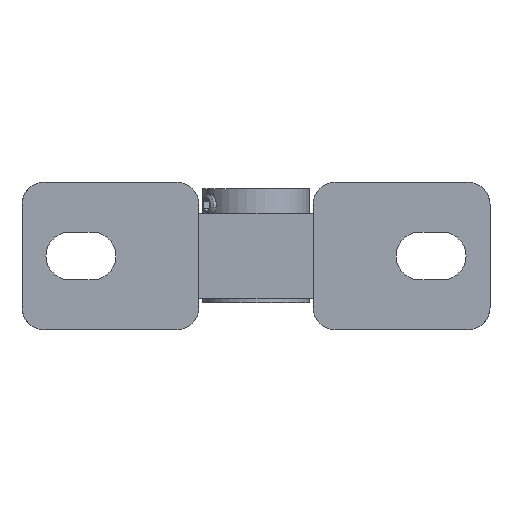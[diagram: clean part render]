
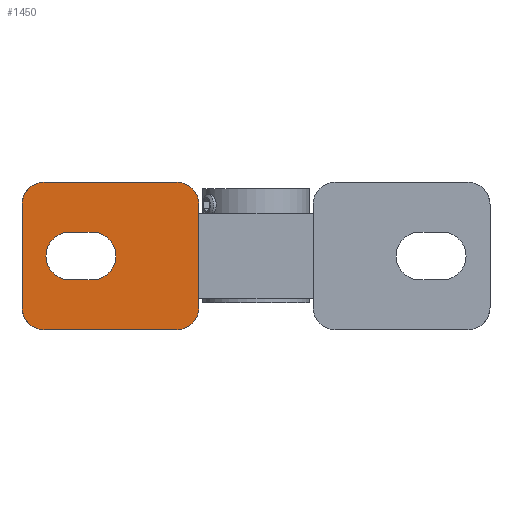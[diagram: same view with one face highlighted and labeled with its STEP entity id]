
A CAD part, front view. The second image highlights one B-rep face of the part: STEP entity #1450.
In plain terms, the highlighted planar face has unit normal (0, -1, 0).
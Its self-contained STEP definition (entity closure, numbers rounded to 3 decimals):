
#179=CARTESIAN_POINT('',(20.855,-31.095,-20.0));
#180=VERTEX_POINT('',#179);
#187=CARTESIAN_POINT('',(-15.145,-31.095,-20.0));
#188=VERTEX_POINT('',#187);
#189=CARTESIAN_POINT('',(20.855,-31.095,-20.0));
#190=DIRECTION('',(-1.0,0.0,0.0));
#191=VECTOR('',#190,36.);
#192=LINE('',#189,#191);
#193=EDGE_CURVE('',#180,#188,#192,.T.);
#776=CARTESIAN_POINT('',(26.855,-31.095,14.));
#777=VERTEX_POINT('',#776);
#784=CARTESIAN_POINT('',(26.855,-31.095,-14.));
#785=VERTEX_POINT('',#784);
#786=CARTESIAN_POINT('',(26.855,-31.095,14.));
#787=DIRECTION('',(0.0,0.0,-1.0));
#788=VECTOR('',#787,28.0);
#789=LINE('',#786,#788);
#790=EDGE_CURVE('',#777,#785,#789,.T.);
#1227=CARTESIAN_POINT('',(-21.145,-31.095,-14.0));
#1228=VERTEX_POINT('',#1227);
#1229=CARTESIAN_POINT('',(-15.145,-31.095,-14.0));
#1230=DIRECTION('',(0.0,1.0,0.0));
#1231=DIRECTION('',(-0.707,0.0,-0.707));
#1232=AXIS2_PLACEMENT_3D('',#1229,#1230,#1231);
#1233=CIRCLE('',#1232,6.);
#1234=EDGE_CURVE('',#188,#1228,#1233,.T.);
#1319=CARTESIAN_POINT('',(-21.145,-31.095,14.0));
#1320=VERTEX_POINT('',#1319);
#1321=CARTESIAN_POINT('',(-21.145,-31.095,-14.0));
#1322=DIRECTION('',(0.0,0.0,1.0));
#1323=VECTOR('',#1322,28.0);
#1324=LINE('',#1321,#1323);
#1325=EDGE_CURVE('',#1228,#1320,#1324,.T.);
#1344=CARTESIAN_POINT('',(-15.145,-31.095,20.0));
#1345=VERTEX_POINT('',#1344);
#1346=CARTESIAN_POINT('',(-15.145,-31.095,14.0));
#1347=DIRECTION('',(0.0,1.0,0.0));
#1348=DIRECTION('',(-0.707,0.0,0.707));
#1349=AXIS2_PLACEMENT_3D('',#1346,#1347,#1348);
#1350=CIRCLE('',#1349,6.);
#1351=EDGE_CURVE('',#1320,#1345,#1350,.T.);
#1367=CARTESIAN_POINT('',(20.855,-31.095,-14.0));
#1368=DIRECTION('',(0.0,1.0,0.0));
#1369=DIRECTION('',(0.707,0.0,-0.707));
#1370=AXIS2_PLACEMENT_3D('',#1367,#1368,#1369);
#1371=CIRCLE('',#1370,6.0);
#1372=EDGE_CURVE('',#785,#180,#1371,.T.);
#1386=CARTESIAN_POINT('',(42.355,-31.095,0.0));
#1387=DIRECTION('',(0.0,-1.0,0.0));
#1388=DIRECTION('',(0.0,0.0,-1.0));
#1389=AXIS2_PLACEMENT_3D('',#1386,#1387,#1388);
#1390=PLANE('',#1389);
#1391=ORIENTED_EDGE('',*,*,#1234,.F.);
#1392=ORIENTED_EDGE('',*,*,#193,.F.);
#1393=ORIENTED_EDGE('',*,*,#1372,.F.);
#1394=ORIENTED_EDGE('',*,*,#790,.F.);
#1395=CARTESIAN_POINT('',(20.855,-31.095,20.0));
#1396=VERTEX_POINT('',#1395);
#1397=CARTESIAN_POINT('',(20.855,-31.095,14.0));
#1398=DIRECTION('',(0.0,1.0,0.0));
#1399=DIRECTION('',(0.707,0.0,0.707));
#1400=AXIS2_PLACEMENT_3D('',#1397,#1398,#1399);
#1401=CIRCLE('',#1400,6.);
#1402=EDGE_CURVE('',#1396,#777,#1401,.T.);
#1403=ORIENTED_EDGE('',*,*,#1402,.F.);
#1404=CARTESIAN_POINT('',(-15.145,-31.095,20.0));
#1405=DIRECTION('',(1.0,0.0,0.0));
#1406=VECTOR('',#1405,36.);
#1407=LINE('',#1404,#1406);
#1408=EDGE_CURVE('',#1345,#1396,#1407,.T.);
#1409=ORIENTED_EDGE('',*,*,#1408,.F.);
#1410=ORIENTED_EDGE('',*,*,#1351,.F.);
#1411=ORIENTED_EDGE('',*,*,#1325,.F.);
#1412=EDGE_LOOP('',(#1391,#1392,#1393,#1394,#1403,#1409,#1410,#1411));
#1413=FACE_OUTER_BOUND('',#1412,.T.);
#1414=CARTESIAN_POINT('',(-8.145,-31.095,-6.5));
#1415=VERTEX_POINT('',#1414);
#1416=CARTESIAN_POINT('',(-2.145,-31.095,-6.5));
#1417=VERTEX_POINT('',#1416);
#1418=CARTESIAN_POINT('',(-8.145,-31.095,-6.5));
#1419=DIRECTION('',(1.0,0.0,0.0));
#1420=VECTOR('',#1419,6.);
#1421=LINE('',#1418,#1420);
#1422=EDGE_CURVE('',#1415,#1417,#1421,.T.);
#1423=ORIENTED_EDGE('',*,*,#1422,.F.);
#1424=CARTESIAN_POINT('',(-8.145,-31.095,6.5));
#1425=VERTEX_POINT('',#1424);
#1426=CARTESIAN_POINT('',(-8.145,-31.095,0.));
#1427=DIRECTION('',(0.0,-1.0,0.0));
#1428=DIRECTION('',(0.0,0.0,1.0));
#1429=AXIS2_PLACEMENT_3D('',#1426,#1427,#1428);
#1430=CIRCLE('',#1429,6.5);
#1431=EDGE_CURVE('',#1425,#1415,#1430,.T.);
#1432=ORIENTED_EDGE('',*,*,#1431,.F.);
#1433=CARTESIAN_POINT('',(-2.145,-31.095,6.5));
#1434=VERTEX_POINT('',#1433);
#1435=CARTESIAN_POINT('',(-2.145,-31.095,6.5));
#1436=DIRECTION('',(-1.0,0.0,0.0));
#1437=VECTOR('',#1436,6.);
#1438=LINE('',#1435,#1437);
#1439=EDGE_CURVE('',#1434,#1425,#1438,.T.);
#1440=ORIENTED_EDGE('',*,*,#1439,.F.);
#1441=CARTESIAN_POINT('',(-2.145,-31.095,0.0));
#1442=DIRECTION('',(0.0,-1.0,0.0));
#1443=DIRECTION('',(0.0,0.0,-1.0));
#1444=AXIS2_PLACEMENT_3D('',#1441,#1442,#1443);
#1445=CIRCLE('',#1444,6.5);
#1446=EDGE_CURVE('',#1417,#1434,#1445,.T.);
#1447=ORIENTED_EDGE('',*,*,#1446,.F.);
#1448=EDGE_LOOP('',(#1423,#1432,#1440,#1447));
#1449=FACE_BOUND('',#1448,.T.);
#1450=ADVANCED_FACE('',(#1413,#1449),#1390,.T.);
